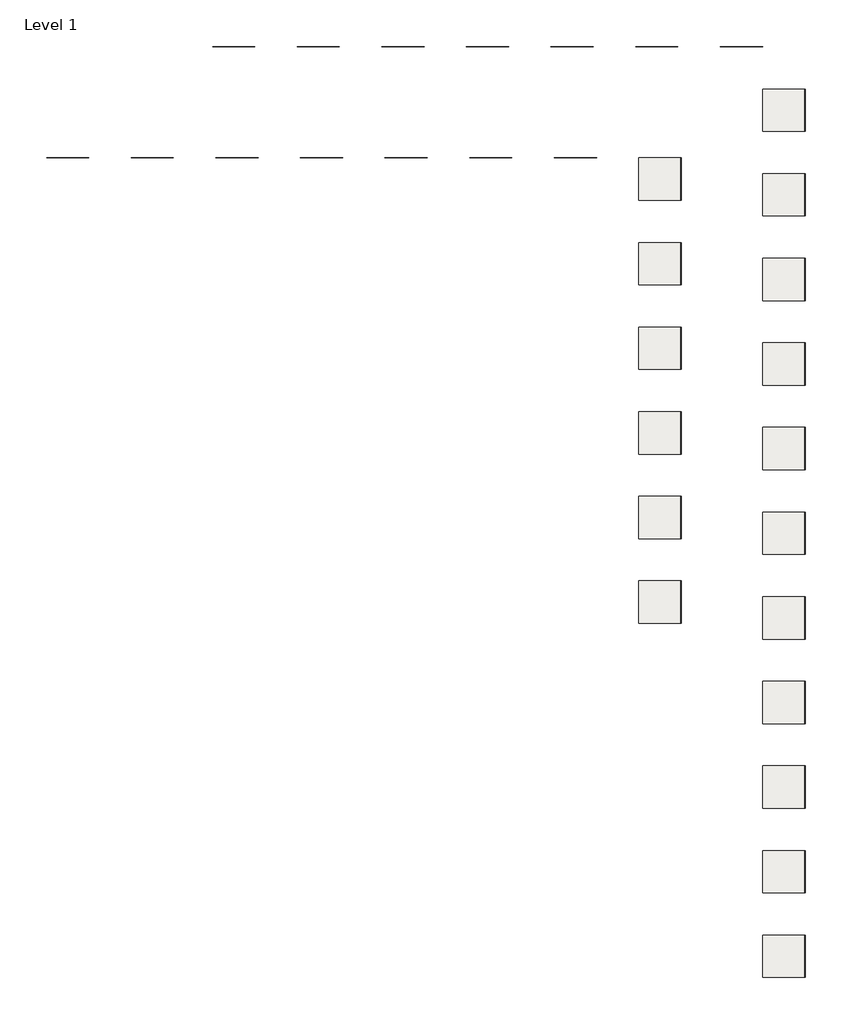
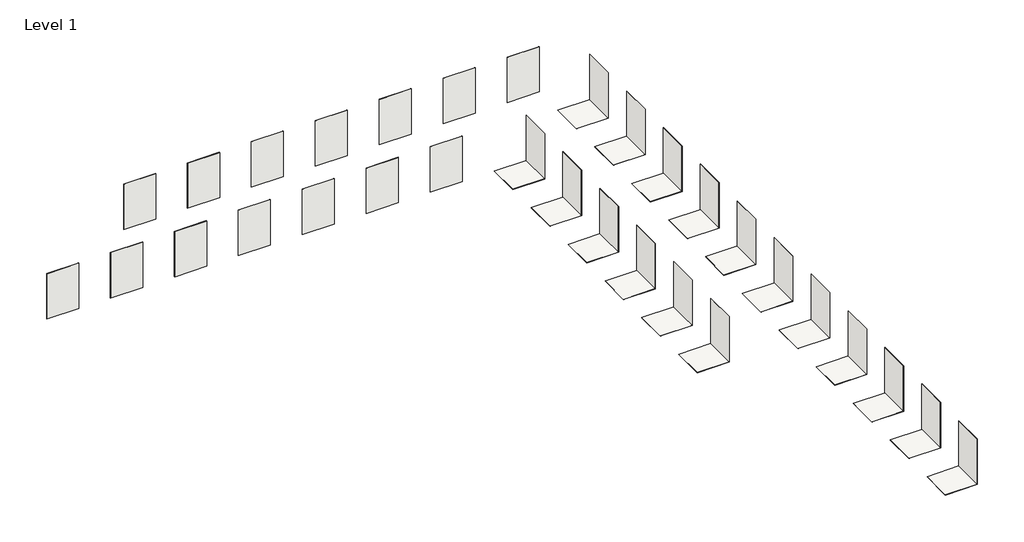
# One storey: 48 coverings.
"""IFC4 building model written with IfcOpenShell, lengths in millimetres."""

from ifc_helpers import new_model, si_unit, frame, origin, origin_with_axes, place, context, project, spatial, polyline, outline, extrude, element, save

model = new_model("IFC4")

# Units and contexts
model_context = context("Model", 3, world=origin())
ifc_project = project(units=[si_unit("LENGTHUNIT", "METRE", prefix="MILLI")], contexts=[model_context])

# Site, building, storey
site = spatial("IfcSite", under=ifc_project)
building = spatial("IfcBuilding", under=site)
storey = spatial("IfcBuildingStorey", under=building, Name="Level 1", Elevation=0.0)

# Coverings
placement = place(None, origin())
element("IfcCovering", 1, ObjectType="PGR_Porcelanosa_CeramicTiles_Bottega_Acero-1200x1200mm-100227107", at=placement, inside=storey, context=model_context, shape_type="SweptSolid", body=[
    extrude(outline(polyline([(3527.0774266, 31498.0173252), (1527.0774266, 31498.0173252), (1527.0774266, 33498.0173252), (3527.0774266, 33498.0173252), (3527.0774266, 31498.0173252)])), frame((0.0, 0.0, -12.0), z_axis=(0.0, 0.0, 1.0), x_axis=(1.0, 0.0, 0.0)), (0.0, 0.0, 1.0), 12.0),
])
element("IfcCovering", 2, ObjectType="PGR_Porcelanosa_CeramicTiles_Bottega_Acero-1200x1200mm-100227107", at=placement, inside=storey, context=model_context, shape_type="SweptSolid", body=[
    extrude(outline(polyline([(3515.0774266, 31498.0173252), (3515.0774266, 33498.0173252), (3527.0774266, 33498.0173252), (3527.0774266, 31498.0173252), (3515.0774266, 31498.0173252)])), origin_with_axes(), (0.0, 0.0, 1.0), 3000.0),
])
element("IfcCovering", 3, ObjectType="PGR_Porcelanosa_CeramicTiles_Bottega_Acero-596x596mm-100214641", at=placement, inside=storey, context=model_context, shape_type="SweptSolid", body=[
    extrude(outline(polyline([(3527.0774266, 35498.0173252), (1527.0774266, 35498.0173252), (1527.0774266, 37498.0173252), (3527.0774266, 37498.0173252), (3527.0774266, 35498.0173252)])), frame((0.0, 0.0, -10.3), z_axis=(0.0, 0.0, 1.0), x_axis=(1.0, 0.0, 0.0)), (0.0, 0.0, 1.0), 10.3),
])
element("IfcCovering", 4, ObjectType="PGR_Porcelanosa_CeramicTiles_Bottega_Acero-596x596mm-100214641", at=placement, inside=storey, context=model_context, shape_type="SweptSolid", body=[
    extrude(outline(polyline([(3516.7774266, 35498.0173252), (3516.7774266, 37498.0173252), (3527.0774266, 37498.0173252), (3527.0774266, 35498.0173252), (3516.7774266, 35498.0173252)])), origin_with_axes(), (0.0, 0.0, 1.0), 3000.0),
])
element("IfcCovering", 5, ObjectType="PGR_Porcelanosa_CeramicTiles_Bottega_Acero-800x800mm-100214633", at=placement, inside=storey, context=model_context, shape_type="SweptSolid", body=[
    extrude(outline(polyline([(3527.0774266, 39498.0173252), (1527.0774266, 39498.0173252), (1527.0774266, 41498.0173252), (3527.0774266, 41498.0173252), (3527.0774266, 39498.0173252)])), frame((0.0, 0.0, -11.2), z_axis=(0.0, 0.0, 1.0), x_axis=(1.0, 0.0, 0.0)), (0.0, 0.0, 1.0), 11.2),
])
element("IfcCovering", 6, ObjectType="PGR_Porcelanosa_CeramicTiles_Bottega_Acero-800x800mm-100214633", at=placement, inside=storey, context=model_context, shape_type="SweptSolid", body=[
    extrude(outline(polyline([(3515.8774266, 39498.0173252), (3515.8774266, 41498.0173252), (3527.0774266, 41498.0173252), (3527.0774266, 39498.0173252), (3515.8774266, 39498.0173252)])), origin_with_axes(), (0.0, 0.0, 1.0), 3000.0),
])
element("IfcCovering", 7, ObjectType="PGR_Porcelanosa_CeramicTiles_Bottega_Acero_Ant.-596x596mm-100221464", at=placement, inside=storey, context=model_context, shape_type="SweptSolid", body=[
    extrude(outline(polyline([(3527.0774266, 43498.0173252), (1527.0774266, 43498.0173252), (1527.0774266, 45498.0173252), (3527.0774266, 45498.0173252), (3527.0774266, 43498.0173252)])), frame((0.0, 0.0, -10.3), z_axis=(0.0, 0.0, 1.0), x_axis=(1.0, 0.0, 0.0)), (0.0, 0.0, 1.0), 10.3),
])
element("IfcCovering", 8, ObjectType="PGR_Porcelanosa_CeramicTiles_Bottega_Acero_Ant.-596x596mm-100221464", at=placement, inside=storey, context=model_context, shape_type="SweptSolid", body=[
    extrude(outline(polyline([(3516.7774266, 43498.0173252), (3516.7774266, 45498.0173252), (3527.0774266, 45498.0173252), (3527.0774266, 43498.0173252), (3516.7774266, 43498.0173252)])), origin_with_axes(), (0.0, 0.0, 1.0), 3000.0),
])
element("IfcCovering", 9, ObjectType="PGR_Porcelanosa_CeramicTiles_Bottega_Acero_Ant.-800x800mm-100221486", at=placement, inside=storey, context=model_context, shape_type="SweptSolid", body=[
    extrude(outline(polyline([(3527.0774266, 47498.0173252), (1527.0774266, 47498.0173252), (1527.0774266, 49498.0173252), (3527.0774266, 49498.0173252), (3527.0774266, 47498.0173252)])), frame((0.0, 0.0, -11.2), z_axis=(0.0, 0.0, 1.0), x_axis=(1.0, 0.0, 0.0)), (0.0, 0.0, 1.0), 11.2),
])
element("IfcCovering", 10, ObjectType="PGR_Porcelanosa_CeramicTiles_Bottega_Acero_Ant.-800x800mm-100221486", at=placement, inside=storey, context=model_context, shape_type="SweptSolid", body=[
    extrude(outline(polyline([(3515.8774266, 47498.0173252), (3515.8774266, 49498.0173252), (3527.0774266, 49498.0173252), (3527.0774266, 47498.0173252), (3515.8774266, 47498.0173252)])), origin_with_axes(), (0.0, 0.0, 1.0), 3000.0),
])
element("IfcCovering", 11, ObjectType="PGR_Porcelanosa_CeramicTiles_Bottega_Caliza-1200x1200mm-100214898", at=placement, inside=storey, context=model_context, shape_type="SweptSolid", body=[
    extrude(outline(polyline([(-2329.8759552, 48240.7986779), (-4329.8759552, 48240.7986779), (-4329.8759552, 50240.7986779), (-2329.8759552, 50240.7986779), (-2329.8759552, 48240.7986779)])), frame((0.0, 0.0, -12.0), z_axis=(0.0, 0.0, 1.0), x_axis=(1.0, 0.0, 0.0)), (0.0, 0.0, 1.0), 12.0),
])
element("IfcCovering", 12, ObjectType="PGR_Porcelanosa_CeramicTiles_Bottega_Caliza-1200x1200mm-100214898", at=placement, inside=storey, context=model_context, shape_type="SweptSolid", body=[
    extrude(outline(polyline([(-2341.8759552, 48240.7986779), (-2341.8759552, 50240.7986779), (-2329.8759552, 50240.7986779), (-2329.8759552, 48240.7986779), (-2341.8759552, 48240.7986779)])), origin_with_axes(), (0.0, 0.0, 1.0), 3000.0),
])
element("IfcCovering", 13, ObjectType="PGR_Porcelanosa_CeramicTiles_Bottega_Caliza-596x596mm-100214648", at=placement, inside=storey, context=model_context, shape_type="SweptSolid", body=[
    extrude(outline(polyline([(-2329.8759552, 52240.7986779), (-4329.8759552, 52240.7986779), (-4329.8759552, 54240.7986779), (-2329.8759552, 54240.7986779), (-2329.8759552, 52240.7986779)])), frame((0.0, 0.0, -10.3), z_axis=(0.0, 0.0, 1.0), x_axis=(1.0, 0.0, 0.0)), (0.0, 0.0, 1.0), 10.3),
])
element("IfcCovering", 14, ObjectType="PGR_Porcelanosa_CeramicTiles_Bottega_Caliza-596x596mm-100214648", at=placement, inside=storey, context=model_context, shape_type="SweptSolid", body=[
    extrude(outline(polyline([(-2340.1759552, 52240.7986779), (-2340.1759552, 54240.7986779), (-2329.8759552, 54240.7986779), (-2329.8759552, 52240.7986779), (-2340.1759552, 52240.7986779)])), origin_with_axes(), (0.0, 0.0, 1.0), 3000.0),
])
element("IfcCovering", 15, ObjectType="PGR_Porcelanosa_CeramicTiles_Bottega_Caliza-800x800mm-100214608", at=placement, inside=storey, context=model_context, shape_type="SweptSolid", body=[
    extrude(outline(polyline([(-2329.8759552, 56240.7986779), (-4329.8759552, 56240.7986779), (-4329.8759552, 58240.7986779), (-2329.8759552, 58240.7986779), (-2329.8759552, 56240.7986779)])), frame((0.0, 0.0, -11.2), z_axis=(0.0, 0.0, 1.0), x_axis=(1.0, 0.0, 0.0)), (0.0, 0.0, 1.0), 11.2),
])
element("IfcCovering", 16, ObjectType="PGR_Porcelanosa_CeramicTiles_Bottega_Caliza-800x800mm-100214608", at=placement, inside=storey, context=model_context, shape_type="SweptSolid", body=[
    extrude(outline(polyline([(-2341.0759552, 56240.7986779), (-2341.0759552, 58240.7986779), (-2329.8759552, 58240.7986779), (-2329.8759552, 56240.7986779), (-2341.0759552, 56240.7986779)])), origin_with_axes(), (0.0, 0.0, 1.0), 3000.0),
])
element("IfcCovering", 17, ObjectType="PGR_Porcelanosa_CeramicTiles_Bottega_Caliza_Ant.-596x596mm-100221473", at=placement, inside=storey, context=model_context, shape_type="SweptSolid", body=[
    extrude(outline(polyline([(-2329.8759552, 60240.7986779), (-4329.8759552, 60240.7986779), (-4329.8759552, 62240.7986779), (-2329.8759552, 62240.7986779), (-2329.8759552, 60240.7986779)])), frame((0.0, 0.0, -10.3), z_axis=(0.0, 0.0, 1.0), x_axis=(1.0, 0.0, 0.0)), (0.0, 0.0, 1.0), 10.3),
])
element("IfcCovering", 18, ObjectType="PGR_Porcelanosa_CeramicTiles_Bottega_Caliza_Ant.-596x596mm-100221473", at=placement, inside=storey, context=model_context, shape_type="SweptSolid", body=[
    extrude(outline(polyline([(-2340.1759552, 60240.7986779), (-2340.1759552, 62240.7986779), (-2329.8759552, 62240.7986779), (-2329.8759552, 60240.7986779), (-2340.1759552, 60240.7986779)])), origin_with_axes(), (0.0, 0.0, 1.0), 3000.0),
])
element("IfcCovering", 19, ObjectType="PGR_Porcelanosa_CeramicTiles_Bottega_Caliza_Ant.-800x800mm-100221502", at=placement, inside=storey, context=model_context, shape_type="SweptSolid", body=[
    extrude(outline(polyline([(-2329.8759552, 64240.7986779), (-4329.8759552, 64240.7986779), (-4329.8759552, 66240.7986779), (-2329.8759552, 66240.7986779), (-2329.8759552, 64240.7986779)])), frame((0.0, 0.0, -11.2), z_axis=(0.0, 0.0, 1.0), x_axis=(1.0, 0.0, 0.0)), (0.0, 0.0, 1.0), 11.2),
])
element("IfcCovering", 20, ObjectType="PGR_Porcelanosa_CeramicTiles_Bottega_Caliza_Ant.-800x800mm-100221502", at=placement, inside=storey, context=model_context, shape_type="SweptSolid", body=[
    extrude(outline(polyline([(-2341.0759552, 64240.7986779), (-2341.0759552, 66240.7986779), (-2329.8759552, 66240.7986779), (-2329.8759552, 64240.7986779), (-2341.0759552, 64240.7986779)])), origin_with_axes(), (0.0, 0.0, 1.0), 3000.0),
])
element("IfcCovering", 21, ObjectType="PGR_Porcelanosa_CeramicTiles_Bottega_Acero-443x443mm-100225055", at=placement, inside=storey, context=model_context, shape_type="SweptSolid", body=[
    extrude(outline(polyline([(3527.0774266, 51498.0173252), (1527.0774266, 51498.0173252), (1527.0774266, 53498.0173252), (3527.0774266, 53498.0173252), (3527.0774266, 51498.0173252)])), frame((0.0, 0.0, -10.3), z_axis=(0.0, 0.0, 1.0), x_axis=(1.0, 0.0, 0.0)), (0.0, 0.0, 1.0), 10.3),
])
element("IfcCovering", 22, ObjectType="PGR_Porcelanosa_CeramicTiles_Bottega_Acero-443x443mm-100225055", at=placement, inside=storey, context=model_context, shape_type="SweptSolid", body=[
    extrude(outline(polyline([(3516.7774266, 51498.0173252), (3516.7774266, 53498.0173252), (3527.0774266, 53498.0173252), (3527.0774266, 51498.0173252), (3516.7774266, 51498.0173252)])), origin_with_axes(), (0.0, 0.0, 1.0), 3000.0),
])
element("IfcCovering", 23, ObjectType="PGR_Porcelanosa_CeramicTiles_Bottega_Caliza-443x443mm-100225065", at=placement, inside=storey, context=model_context, shape_type="SweptSolid", body=[
    extrude(outline(polyline([(-2329.8759552, 68240.7986779), (-4329.8759552, 68240.7986779), (-4329.8759552, 70240.7986779), (-2329.8759552, 70240.7986779), (-2329.8759552, 68240.7986779)])), frame((0.0, 0.0, -11.2), z_axis=(0.0, 0.0, 1.0), x_axis=(1.0, 0.0, 0.0)), (0.0, 0.0, 1.0), 11.2),
])
element("IfcCovering", 24, ObjectType="PGR_Porcelanosa_CeramicTiles_Bottega_Caliza-443x443mm-100225065", at=placement, inside=storey, context=model_context, shape_type="SweptSolid", body=[
    extrude(outline(polyline([(-2341.0759552, 68240.7986779), (-2341.0759552, 70240.7986779), (-2329.8759552, 70240.7986779), (-2329.8759552, 68240.7986779), (-2341.0759552, 68240.7986779)])), origin_with_axes(), (0.0, 0.0, 1.0), 3000.0),
])
element("IfcCovering", 25, ObjectType="PGR_Porcelanosa_CeramicTiles_Bottega_Topo-1200x1200mm-100227119", at=placement, inside=storey, context=model_context, shape_type="SweptSolid", body=[
    extrude(outline(polyline([(3527.0774266, 55498.0173252), (1527.0774266, 55498.0173252), (1527.0774266, 57498.0173252), (3527.0774266, 57498.0173252), (3527.0774266, 55498.0173252)])), frame((0.0, 0.0, -12.0), z_axis=(0.0, 0.0, 1.0), x_axis=(1.0, 0.0, 0.0)), (0.0, 0.0, 1.0), 12.0),
])
element("IfcCovering", 26, ObjectType="PGR_Porcelanosa_CeramicTiles_Bottega_Topo-1200x1200mm-100227119", at=placement, inside=storey, context=model_context, shape_type="SweptSolid", body=[
    extrude(outline(polyline([(3515.0774266, 55498.0173252), (3515.0774266, 57498.0173252), (3527.0774266, 57498.0173252), (3527.0774266, 55498.0173252), (3515.0774266, 55498.0173252)])), origin_with_axes(), (0.0, 0.0, 1.0), 3000.0),
])
element("IfcCovering", 27, ObjectType="PGR_Porcelanosa_CeramicTiles_Bottega_Topo-596x596mm-100214662", at=placement, inside=storey, context=model_context, shape_type="SweptSolid", body=[
    extrude(outline(polyline([(3527.0774266, 59498.0173252), (1527.0774266, 59498.0173252), (1527.0774266, 61498.0173252), (3527.0774266, 61498.0173252), (3527.0774266, 59498.0173252)])), frame((0.0, 0.0, -10.3), z_axis=(0.0, 0.0, 1.0), x_axis=(1.0, 0.0, 0.0)), (0.0, 0.0, 1.0), 10.3),
])
element("IfcCovering", 28, ObjectType="PGR_Porcelanosa_CeramicTiles_Bottega_Topo-596x596mm-100214662", at=placement, inside=storey, context=model_context, shape_type="SweptSolid", body=[
    extrude(outline(polyline([(3516.7774266, 59498.0173252), (3516.7774266, 61498.0173252), (3527.0774266, 61498.0173252), (3527.0774266, 59498.0173252), (3516.7774266, 59498.0173252)])), origin_with_axes(), (0.0, 0.0, 1.0), 3000.0),
])
element("IfcCovering", 29, ObjectType="PGR_Porcelanosa_CeramicTiles_Bottega_Topo-800x800mm-100214622", at=placement, inside=storey, context=model_context, shape_type="SweptSolid", body=[
    extrude(outline(polyline([(3527.0774266, 63498.0173252), (1527.0774266, 63498.0173252), (1527.0774266, 65498.0173252), (3527.0774266, 65498.0173252), (3527.0774266, 63498.0173252)])), frame((0.0, 0.0, -11.2), z_axis=(0.0, 0.0, 1.0), x_axis=(1.0, 0.0, 0.0)), (0.0, 0.0, 1.0), 11.2),
])
element("IfcCovering", 30, ObjectType="PGR_Porcelanosa_CeramicTiles_Bottega_Topo-800x800mm-100214622", at=placement, inside=storey, context=model_context, shape_type="SweptSolid", body=[
    extrude(outline(polyline([(3515.8774266, 63498.0173252), (3515.8774266, 65498.0173252), (3527.0774266, 65498.0173252), (3527.0774266, 63498.0173252), (3515.8774266, 63498.0173252)])), origin_with_axes(), (0.0, 0.0, 1.0), 3000.0),
])
element("IfcCovering", 31, ObjectType="PGR_Porcelanosa_CeramicTiles_Bottega_Topo_Ant.-596x596mm-100221449", at=placement, inside=storey, context=model_context, shape_type="SweptSolid", body=[
    extrude(outline(polyline([(3527.0774266, 67498.0173252), (1527.0774266, 67498.0173252), (1527.0774266, 69498.0173252), (3527.0774266, 69498.0173252), (3527.0774266, 67498.0173252)])), frame((0.0, 0.0, -10.3), z_axis=(0.0, 0.0, 1.0), x_axis=(1.0, 0.0, 0.0)), (0.0, 0.0, 1.0), 10.3),
])
element("IfcCovering", 32, ObjectType="PGR_Porcelanosa_CeramicTiles_Bottega_Topo_Ant.-596x596mm-100221449", at=placement, inside=storey, context=model_context, shape_type="SweptSolid", body=[
    extrude(outline(polyline([(3516.7774266, 67498.0173252), (3516.7774266, 69498.0173252), (3527.0774266, 69498.0173252), (3527.0774266, 67498.0173252), (3516.7774266, 67498.0173252)])), origin_with_axes(), (0.0, 0.0, 1.0), 3000.0),
])
element("IfcCovering", 33, ObjectType="PGR_Porcelanosa_CeramicTiles_Bottega_Topo_Ant.-800x800mm-100221465", at=placement, inside=storey, context=model_context, shape_type="SweptSolid", body=[
    extrude(outline(polyline([(3527.0774266, 71498.0173252), (1527.0774266, 71498.0173252), (1527.0774266, 73498.0173252), (3527.0774266, 73498.0173252), (3527.0774266, 71498.0173252)])), frame((0.0, 0.0, -11.2), z_axis=(0.0, 0.0, 1.0), x_axis=(1.0, 0.0, 0.0)), (0.0, 0.0, 1.0), 11.2),
])
element("IfcCovering", 34, ObjectType="PGR_Porcelanosa_CeramicTiles_Bottega_Topo_Ant.-800x800mm-100221465", at=placement, inside=storey, context=model_context, shape_type="SweptSolid", body=[
    extrude(outline(polyline([(3515.8774266, 71498.0173252), (3515.8774266, 73498.0173252), (3527.0774266, 73498.0173252), (3527.0774266, 71498.0173252), (3515.8774266, 71498.0173252)])), origin_with_axes(), (0.0, 0.0, 1.0), 3000.0),
])
element("IfcCovering", 35, ObjectType="PGR_Porcelanosa_CeramicTiles_Bottega_Acero-316x900mm-100215162", at=placement, inside=storey, context=model_context, shape_type="SweptSolid", body=[
    extrude(outline(polyline([(1518.0774266, 75498.0173252), (-481.9225734, 75498.0173252), (-481.9225734, 75507.0173252), (1518.0774266, 75507.0173252), (1518.0774266, 75498.0173252)])), origin_with_axes(), (0.0, 0.0, 1.0), 3000.0),
])
element("IfcCovering", 36, ObjectType="PGR_Porcelanosa_CeramicTiles_Bottega_Acero-450x1200mm-100214606", at=placement, inside=storey, context=model_context, shape_type="SweptSolid", body=[
    extrude(outline(polyline([(-2481.9225734, 75496.9173252), (-4481.9225734, 75496.9173252), (-4481.9225734, 75507.0173252), (-2481.9225734, 75507.0173252), (-2481.9225734, 75496.9173252)])), origin_with_axes(), (0.0, 0.0, 1.0), 3000.0),
])
element("IfcCovering", 37, ObjectType="PGR_Porcelanosa_CeramicTiles_Bottega_Caliza-316x900mm-100215126", at=placement, inside=storey, context=model_context, shape_type="SweptSolid", body=[
    extrude(outline(polyline([(-6329.8759552, 70240.7986779), (-8329.8759552, 70240.7986779), (-8329.8759552, 70249.7986779), (-6329.8759552, 70249.7986779), (-6329.8759552, 70240.7986779)])), origin_with_axes(), (0.0, 0.0, 1.0), 3000.0),
])
element("IfcCovering", 38, ObjectType="PGR_Porcelanosa_CeramicTiles_Bottega_Caliza-450x1200mm-100214661", at=placement, inside=storey, context=model_context, shape_type="SweptSolid", body=[
    extrude(outline(polyline([(-10329.8759552, 70240.7986779), (-12329.8759552, 70240.7986779), (-12329.8759552, 70250.8986779), (-10329.8759552, 70250.8986779), (-10329.8759552, 70240.7986779)])), origin_with_axes(), (0.0, 0.0, 1.0), 3000.0),
])
element("IfcCovering", 39, ObjectType="PGR_Porcelanosa_CeramicTiles_Line_Pekin_Bottega_Acero-450x1200mm-100226494", at=placement, inside=storey, context=model_context, shape_type="SweptSolid", body=[
    extrude(outline(polyline([(-6481.9225734, 75496.6173252), (-8481.9225734, 75496.6173252), (-8481.9225734, 75507.0173252), (-6481.9225734, 75507.0173252), (-6481.9225734, 75496.6173252)])), origin_with_axes(), (0.0, 0.0, 1.0), 3000.0),
])
element("IfcCovering", 40, ObjectType="PGR_Porcelanosa_CeramicTiles_Line_Pekin_Bottega_Caliza-450x1200mm-100226503", at=placement, inside=storey, context=model_context, shape_type="SweptSolid", body=[
    extrude(outline(polyline([(-14329.8759552, 70240.7986779), (-16329.8759552, 70240.7986779), (-16329.8759552, 70251.1986779), (-14329.8759552, 70251.1986779), (-14329.8759552, 70240.7986779)])), origin_with_axes(), (0.0, 0.0, 1.0), 3000.0),
])
element("IfcCovering", 41, ObjectType="PGR_Porcelanosa_CeramicTiles_Spiga_Bottega_Acero-450x1200mm-100214812", at=placement, inside=storey, context=model_context, shape_type="SweptSolid", body=[
    extrude(outline(polyline([(-18481.9225734, 75495.7173252), (-20481.9225734, 75495.7173252), (-20481.9225734, 75505.8173252), (-18481.9225734, 75505.8173252), (-18481.9225734, 75495.7173252)])), origin_with_axes(), (0.0, 0.0, 1.0), 3000.0),
])
element("IfcCovering", 42, ObjectType="PGR_Porcelanosa_CeramicTiles_Spiga_Bottega_Caliza-450x1200mm-100214820", at=placement, inside=storey, context=model_context, shape_type="SweptSolid", body=[
    extrude(outline(polyline([(-26329.8759552, 70240.7986779), (-28329.8759552, 70240.7986779), (-28329.8759552, 70250.8986779), (-26329.8759552, 70250.8986779), (-26329.8759552, 70240.7986779)])), origin_with_axes(), (0.0, 0.0, 1.0), 3000.0),
])
element("IfcCovering", 43, ObjectType="PGR_Porcelanosa_CeramicTiles_Twin_Bottega_Acero-450x1200mm-100214786", at=placement, inside=storey, context=model_context, shape_type="SweptSolid", body=[
    extrude(outline(polyline([(-22481.9225734, 75495.7173252), (-24481.9225734, 75495.7173252), (-24481.9225734, 75506.1173252), (-22481.9225734, 75506.1173252), (-22481.9225734, 75495.7173252)])), origin_with_axes(), (0.0, 0.0, 1.0), 3000.0),
])
element("IfcCovering", 44, ObjectType="PGR_Porcelanosa_CeramicTiles_Twin_Bottega_Caliza-450x1200mm-100214794", at=placement, inside=storey, context=model_context, shape_type="SweptSolid", body=[
    extrude(outline(polyline([(-30329.8759552, 70240.7986779), (-32329.8759552, 70240.7986779), (-32329.8759552, 70251.1986779), (-30329.8759552, 70251.1986779), (-30329.8759552, 70240.7986779)])), origin_with_axes(), (0.0, 0.0, 1.0), 3000.0),
])
element("IfcCovering", 45, ObjectType="PGR_Porcelanosa_CeramicTiles_Spiga_Bottega_Acero-316x592mm-100225056", at=placement, inside=storey, context=model_context, shape_type="SweptSolid", body=[
    extrude(outline(polyline([(-10481.9225734, 75495.7173252), (-12481.9225734, 75495.7173252), (-12481.9225734, 75507.0173252), (-10481.9225734, 75507.0173252), (-10481.9225734, 75495.7173252)])), origin_with_axes(), (0.0, 0.0, 1.0), 3000.0),
])
element("IfcCovering", 46, ObjectType="PGR_Porcelanosa_CeramicTiles_Bottega_Acero-316x592mm-100225102", at=placement, inside=storey, context=model_context, shape_type="SweptSolid", body=[
    extrude(outline(polyline([(-14481.9225734, 75495.7173252), (-16481.9225734, 75495.7173252), (-16481.9225734, 75507.0173252), (-14481.9225734, 75507.0173252), (-14481.9225734, 75495.7173252)])), origin_with_axes(), (0.0, 0.0, 1.0), 3000.0),
])
element("IfcCovering", 47, ObjectType="PGR_Porcelanosa_CeramicTiles_Bottega_Caliza-316x592mm-100225103", at=placement, inside=storey, context=model_context, shape_type="SweptSolid", body=[
    extrude(outline(polyline([(-22329.8759552, 70240.7986779), (-24329.8759552, 70240.7986779), (-24329.8759552, 70252.0986779), (-22329.8759552, 70252.0986779), (-22329.8759552, 70240.7986779)])), origin_with_axes(), (0.0, 0.0, 1.0), 3000.0),
])
element("IfcCovering", 48, ObjectType="PGR_Porcelanosa_CeramicTiles_Spiga_Bottega_Caliza-316x592mm-100225104", at=placement, inside=storey, context=model_context, shape_type="SweptSolid", body=[
    extrude(outline(polyline([(-18329.8759552, 70240.7986779), (-20329.8759552, 70240.7986779), (-20329.8759552, 70252.0986779), (-18329.8759552, 70252.0986779), (-18329.8759552, 70240.7986779)])), origin_with_axes(), (0.0, 0.0, 1.0), 3000.0),
])

save(model, "model.ifc")
